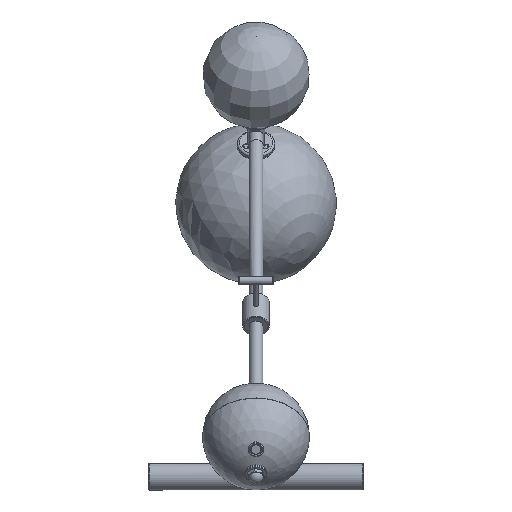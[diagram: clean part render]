
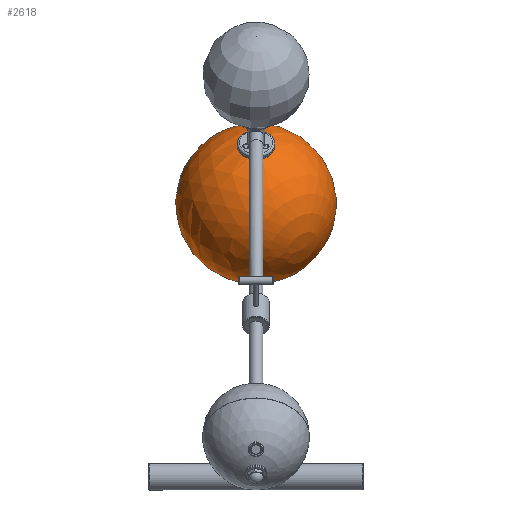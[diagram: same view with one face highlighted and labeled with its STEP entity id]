
A CAD part, left-side view. The second image highlights one B-rep face of the part: STEP entity #2618.
In plain terms, the highlighted spherical face has radius 75 mm.
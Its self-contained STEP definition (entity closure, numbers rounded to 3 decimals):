
#106=SPHERICAL_SURFACE('',#2948,75.);
#130=FACE_BOUND('',#496,.T.);
#309=FACE_OUTER_BOUND('',#495,.T.);
#495=EDGE_LOOP('',(#2167,#2168));
#496=EDGE_LOOP('',(#2169));
#948=CIRCLE('',#2949,75.);
#949=CIRCLE('',#2950,16.5);
#1238=VERTEX_POINT('',#4877);
#1239=VERTEX_POINT('',#4878);
#1240=VERTEX_POINT('',#4880);
#1576=EDGE_CURVE('',#1238,#1239,#948,.T.);
#1577=EDGE_CURVE('',#1240,#1240,#949,.T.);
#2167=ORIENTED_EDGE('',*,*,#1576,.T.);
#2168=ORIENTED_EDGE('',*,*,#1576,.F.);
#2169=ORIENTED_EDGE('',*,*,#1577,.T.);
#2618=ADVANCED_FACE('',(#309,#130),#106,.T.);
#2948=AXIS2_PLACEMENT_3D('',#4876,#3639,#3640);
#2949=AXIS2_PLACEMENT_3D('',#4879,#3641,#3642);
#2950=AXIS2_PLACEMENT_3D('',#4881,#3643,#3644);
#3639=DIRECTION('center_axis',(-0.584,-0.582,-0.566));
#3640=DIRECTION('ref_axis',(0.418,-0.813,0.405));
#3641=DIRECTION('center_axis',(0.696,0.,
-0.718));
#3642=DIRECTION('ref_axis',(-0.418,0.813,-0.405));
#3643=DIRECTION('center_axis',(0.696,0.,-0.718));
#3644=DIRECTION('ref_axis',(-0.681,-0.315,-0.66));
#4876=CARTESIAN_POINT('Origin',(96.069,-0.054,267.123));
#4877=CARTESIAN_POINT('',(52.285,-43.721,224.683));
#4878=CARTESIAN_POINT('',(139.852,43.613,309.564));
#4879=CARTESIAN_POINT('Origin',(96.069,-0.054,267.123));
#4880=CARTESIAN_POINT('',(56.39,5.149,330.555));
#4881=CARTESIAN_POINT('Origin',(45.147,-0.054,319.657));
